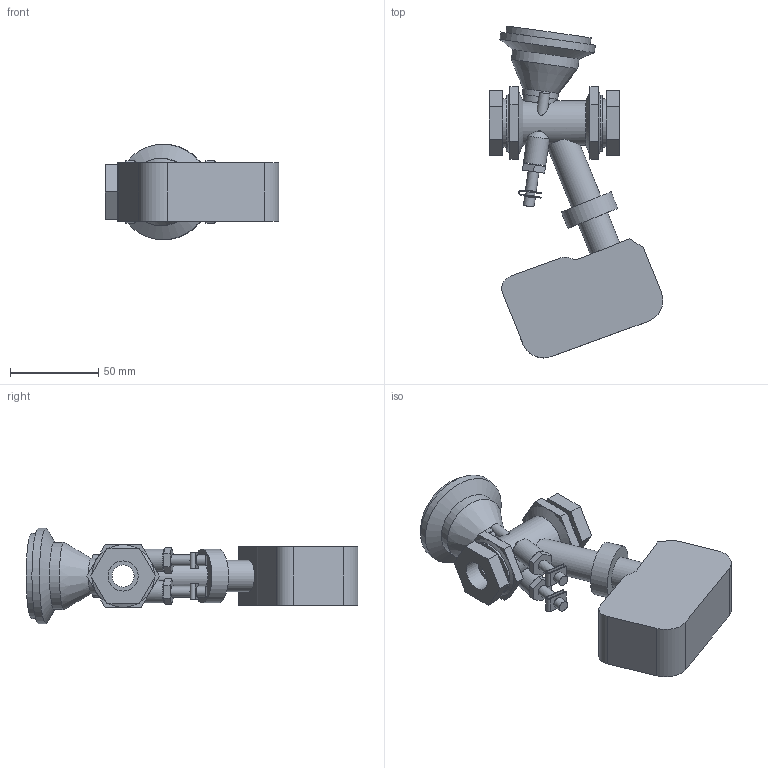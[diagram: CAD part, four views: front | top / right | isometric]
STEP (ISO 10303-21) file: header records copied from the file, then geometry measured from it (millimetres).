
FILE_DESCRIPTION(/* description */ ('VIC BALANCING AND CONTROL VALVE SERIES 7CP (FPT)-TA ACT','CAx-IF Rec.Pracs.---Representation and Presentation of Product Manufacturing Information (PMI)---4.0---2014-10-13'),/* implementation_level */ '2;1');
FILE_NAME(/* name */ 'C:\Users\Vjadhav\AppData\Roaming\Autodesk\ApplicationPlugins\Victaulic.Temp\A633\Victaulic_IPS_Valve Balancing Pressure Independent_TA Series 7CP (FPT)_TA ACT_0.375 (10).stp',/* time_stamp */ '2021-09-14T20:02:08+06:00',/* author */ ('Vjadhav'),/* organization */ ('Victaulic'),/* preprocessor_version */ 'ST-DEVELOPER v17.2',/* originating_system */ 'Autodesk Inventor 2019',/* authorisation */ '');
FILE_SCHEMA (('AP242_MANAGED_MODEL_BASED_3D_ENGINEERING_MIM_LF { 1 0 10303 442 1 1 4 }'));
Length unit declared in the file: inch
Products named in the file (2): 7CP_TA ACT-0.375; 7CP-0.375
Assembly tree (1 placements, depth 2):
  7CP_TA ACT-0.375
    7CP-0.375
Bounding box: 98.52 x 188.47 x 54.1 mm (x, y, z)
Volume: 238034.7 mm3; surface area: 46939 mm2
Topology: 1 solids, 1 shells, 174 faces, 432 edges, 288 vertices
Faces by surface type: plane 120, cylinder 46, cone 8
Full cylindrical faces by diameter (mm): 5.08 x6, 6.096 x6, 12.522 x2, 12.7 x2, 17.145 x3, 17.78 x2, 20.32 x1, 25.4 x1, 27.432 x2, 30.471 x1, 31.75 x2, 38.1 x1, 48.26 x1, 54.102 x1
Entity records: 5720 total; most frequent: CARTESIAN_POINT 1118, DIRECTION 944, ORIENTED_EDGE 864, EDGE_CURVE 432, AXIS2_PLACEMENT_3D 350, VERTEX_POINT 288, LINE 244, VECTOR 244
